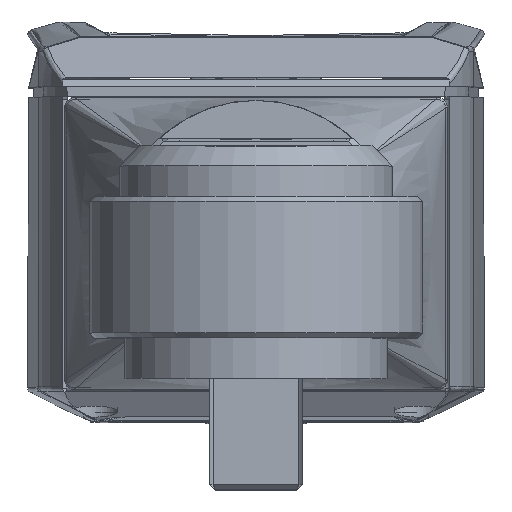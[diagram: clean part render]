
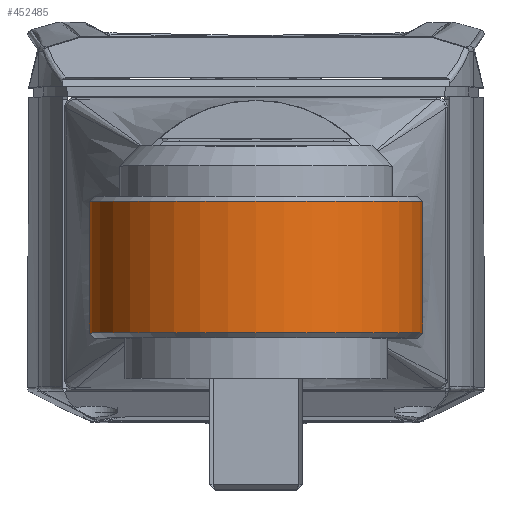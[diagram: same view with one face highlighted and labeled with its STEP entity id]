
A CAD part, top view. The second image highlights one B-rep face of the part: STEP entity #452485.
In plain terms, the highlighted cylindrical face has radius 16.5 mm (diameter 33 mm), a partial arc.
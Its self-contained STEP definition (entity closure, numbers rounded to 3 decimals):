
#451838=DIRECTION('',(0.,1.,0.));
#451839=VECTOR('',#451838,13.);
#451840=CARTESIAN_POINT('',(15.692,8.45,
118.201));
#451841=LINE('',#451840,#451839);
#451846=CARTESIAN_POINT('',(0.,8.45,123.3));
#451847=DIRECTION('',(0.,-1.,0.));
#451848=DIRECTION('',(0.951,0.,-0.309));
#451849=AXIS2_PLACEMENT_3D('',#451846,#451847,#451848);
#451851=DIRECTION('',(0.,1.,0.));
#451852=VECTOR('',#451851,13.);
#451853=CARTESIAN_POINT('',(-15.692,8.45,
118.201));
#451854=LINE('',#451853,#451852);
#451855=CARTESIAN_POINT('',(0.,21.45,123.3));
#451856=DIRECTION('',(0.,1.,0.));
#451857=DIRECTION('',(-0.951,0.,-0.309));
#451858=AXIS2_PLACEMENT_3D('',#451855,#451856,#451857);
#452252=CARTESIAN_POINT('',(-15.692,21.45,118.201));
#452253=CARTESIAN_POINT('',(15.692,21.45,118.201));
#452254=VERTEX_POINT('',#452252);
#452255=VERTEX_POINT('',#452253);
#452260=CARTESIAN_POINT('',(15.692,8.45,118.201));
#452261=CARTESIAN_POINT('',(-15.692,8.45,118.201));
#452262=VERTEX_POINT('',#452260);
#452263=VERTEX_POINT('',#452261);
#452472=CARTESIAN_POINT('',(0.,7.95,123.3));
#452473=DIRECTION('',(0.,-1.,0.));
#452474=DIRECTION('',(1.,0.,0.));
#452475=AXIS2_PLACEMENT_3D('',#452472,#452473,#452474);
#452476=CYLINDRICAL_SURFACE('',#452475,16.5);
#452478=ORIENTED_EDGE('',*,*,#452477,.T.);
#452479=ORIENTED_EDGE('',*,*,#452435,.T.);
#452481=ORIENTED_EDGE('',*,*,#452480,.T.);
#452482=ORIENTED_EDGE('',*,*,#452458,.F.);
#452483=EDGE_LOOP('',(#452478,#452479,#452481,#452482));
#452484=FACE_OUTER_BOUND('',#452483,.F.);
#451850=CIRCLE('',#451849,16.5);
#451859=CIRCLE('',#451858,16.5);
#452435=EDGE_CURVE('',#452263,#452254,#451854,.T.);
#452458=EDGE_CURVE('',#452262,#452255,#451841,.T.);
#452477=EDGE_CURVE('',#452262,#452263,#451850,.T.);
#452480=EDGE_CURVE('',#452254,#452255,#451859,.T.);
#452485=ADVANCED_FACE('',(#452484),#452476,.T.);
